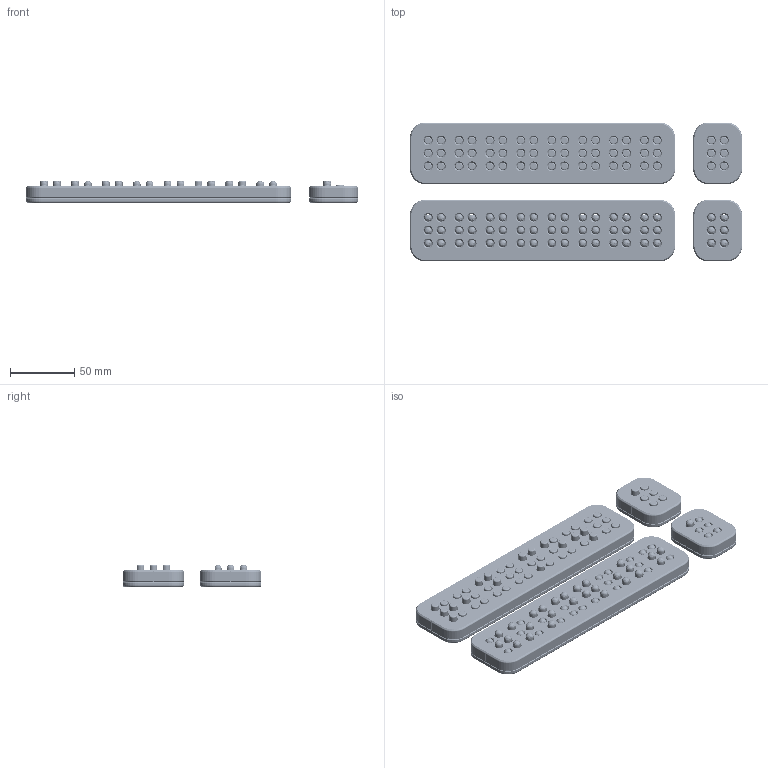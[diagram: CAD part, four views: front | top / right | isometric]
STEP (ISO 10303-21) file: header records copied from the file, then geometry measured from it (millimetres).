
FILE_DESCRIPTION(/* description */ (''),/* implementation_level */ '2;1');
FILE_NAME(/* name */ '',/* time_stamp */ '',/* author */ (''),/* organization */ (''),/* preprocessor_version */ 'ST-DEVELOPER v20',/* originating_system */ 'Autodesk Translation Framework v12.20.1.177',/* authorisation */ '');
FILE_SCHEMA (('AUTOMOTIVE_DESIGN { 1 0 10303 214 3 1 1 }'));
Products named in the file (1): Braillet Peg Cell 6mm
Bounding box: 258 x 108 x 17 mm (x, y, z)
Volume: 216232.3 mm3; surface area: 135724.1 mm2
Topology: 121 solids, 130 shells, 4456 faces, 10874 edges, 6412 vertices
Faces by surface type: cone 1932, cylinder 1224, plane 944, torus 248, bspline 108
Full cylindrical faces by diameter (mm): 5 x216, 6.5 x216, 9.1 x54
Entity records: 137251 total; most frequent: CARTESIAN_POINT 33037, DIRECTION 23246, ORIENTED_EDGE 21532, EDGE_CURVE 10766, AXIS2_PLACEMENT_3D 9764, VERTEX_POINT 6412, CIRCLE 5391, EDGE_LOOP 4892
